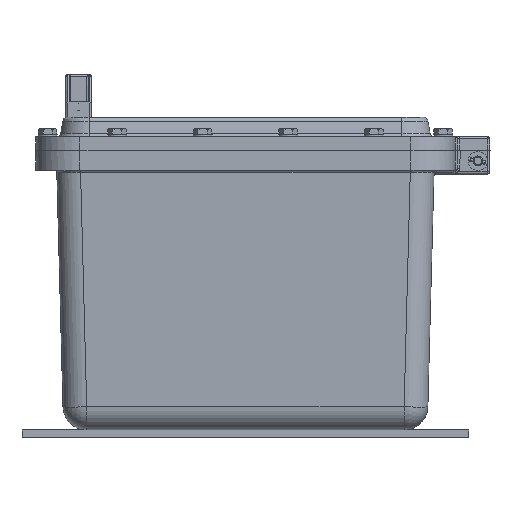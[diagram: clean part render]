
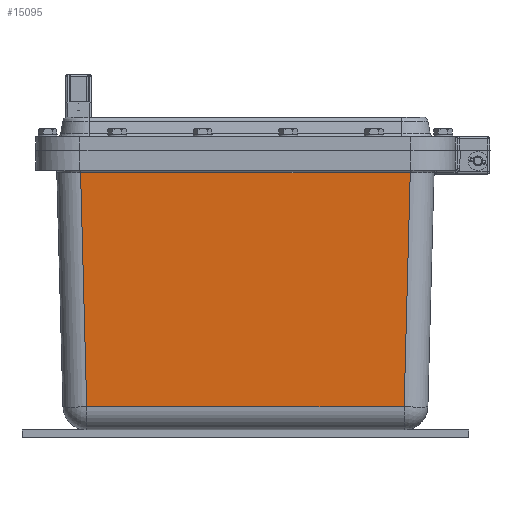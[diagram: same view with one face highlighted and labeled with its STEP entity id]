
A CAD part, front view. The second image highlights one B-rep face of the part: STEP entity #15095.
In plain terms, the highlighted planar face has unit normal (0, -1, -0.026).
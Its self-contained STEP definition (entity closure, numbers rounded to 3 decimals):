
#12990=CARTESIAN_POINT('',(173.395,-298.686,-23.435));
#12991=VERTEX_POINT('',#12990);
#13016=CARTESIAN_POINT('',(-173.395,-298.686,-23.435));
#13017=VERTEX_POINT('',#13016);
#13025=CARTESIAN_POINT('',(-173.395,-298.686,-23.435));
#13026=DIRECTION('',(1.0,0.0,0.0));
#13027=VECTOR('',#13026,346.79);
#13028=LINE('',#13025,#13027);
#13029=EDGE_CURVE('',#13017,#12991,#13028,.T.);
#14909=CARTESIAN_POINT('',(-166.947,-292.239,-269.654));
#14910=VERTEX_POINT('',#14909);
#14952=CARTESIAN_POINT('',(-166.947,-292.239,-269.654));
#14953=DIRECTION('',(-0.026,-0.026,0.999));
#14954=VECTOR('',#14953,246.389);
#14955=LINE('',#14952,#14954);
#14956=EDGE_CURVE('',#14910,#13017,#14955,.T.);
#14997=CARTESIAN_POINT('',(166.947,-292.239,-269.654));
#14998=VERTEX_POINT('',#14997);
#15022=CARTESIAN_POINT('',(173.395,-298.686,-23.435));
#15023=DIRECTION('',(-0.026,0.026,-0.999));
#15024=VECTOR('',#15023,246.389);
#15025=LINE('',#15022,#15024);
#15026=EDGE_CURVE('',#12991,#14998,#15025,.T.);
#15039=CARTESIAN_POINT('',(166.947,-292.239,-269.654));
#15040=DIRECTION('',(-1.0,0.0,0.0));
#15041=VECTOR('',#15040,333.895);
#15042=LINE('',#15039,#15041);
#15043=EDGE_CURVE('',#14998,#14910,#15042,.T.);
#15084=CARTESIAN_POINT('',(-199.0,-299.3,0.0));
#15085=DIRECTION('',(0.0,-1.,-0.026));
#15086=DIRECTION('',(-1.0,0.0,0.0));
#15087=AXIS2_PLACEMENT_3D('',#15084,#15085,#15086);
#15088=PLANE('',#15087);
#15089=ORIENTED_EDGE('',*,*,#13029,.F.);
#15090=ORIENTED_EDGE('',*,*,#14956,.F.);
#15091=ORIENTED_EDGE('',*,*,#15043,.F.);
#15092=ORIENTED_EDGE('',*,*,#15026,.F.);
#15093=EDGE_LOOP('',(#15089,#15090,#15091,#15092));
#15094=FACE_OUTER_BOUND('',#15093,.T.);
#15095=ADVANCED_FACE('',(#15094),#15088,.T.);
